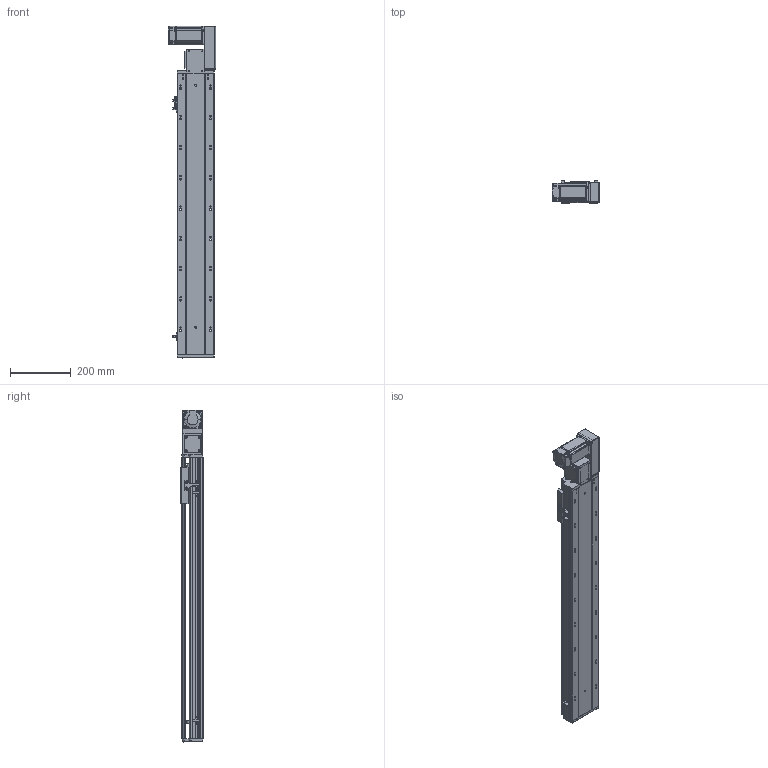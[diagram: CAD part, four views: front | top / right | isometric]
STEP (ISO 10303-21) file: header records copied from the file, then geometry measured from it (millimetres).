
FILE_DESCRIPTION (( 'STEP AP203' ), '1' );
FILE_NAME ('RY120-T-300-RK.SLDASM_700.step', '2021-03-01T03:53:05', ( '盈信电脑' ), ( '东莞市道滘镇水果街19号' ), 'SwSTEP 2.0', 'SolidWorks 2012', '' );
FILE_SCHEMA (( 'CONFIG_CONTROL_DESIGN' ));
Length unit declared in the file: millimetre
Products named in the file (17): RY120-T-300-RK.SLDASM_700; RY120-T萇儂假蚾啣; RY120-T萇儂欶; RY120-T主同步轮轴承压盖; RY120-T蹟翐M4; 滅袉蝶18-10; RY120-T翋肮祭盓傅釱; 15; RY120-T翋肮祭謫裔啣; RY120-T肮祭湍揤踡輸1; RY120外置感应片(140共用）; RY120-T肮祭湍揤踡輸2; RY120綴裔啣; RY120肮祭湍臏賑輸; 覜茼ん672; RY120-T-300-RK倰第奻裔啣_700; RY120-T-300-RK倰第菁釱_700
Assembly tree (22 placements, depth 2):
  RY120-T-300-RK.SLDASM_700
    RY120-T-300-RK倰第菁釱_700
    RY120-T-300-RK倰第奻裔啣_700
    RY120肮祭湍臏賑輸
    RY120綴裔啣
    覜茼ん672  x3
    RY120外置感应片(140共用）
    RY120-T肮祭湍揤踡輸1
    RY120-T肮祭湍揤踡輸2
    RY120-T翋肮祭盓傅釱
    滅袉蝶18-10  x2
    RY120-T翋肮祭謫裔啣
    15
    RY120-T萇儂假蚾啣
    RY120-T蹟翐M4  x4
    RY120-T萇儂欶
    RY120-T主同步轮轴承压盖
Bounding box: 155.5 x 73 x 1097.5 mm (x, y, z)
Volume: 2955303.6 mm3; surface area: 1091516.3 mm2
Topology: 23 solids, 23 shells, 2856 faces, 7824 edges, 5036 vertices
Faces by surface type: plane 1432, cylinder 1102, cone 233, bspline 89
Entity records: 91973 total; most frequent: CARTESIAN_POINT 23970, ORIENTED_EDGE 14112, DIRECTION 13206, EDGE_CURVE 7056, VERTEX_POINT 4623, AXIS2_PLACEMENT_3D 4423, VECTOR 4360, LINE 4360
